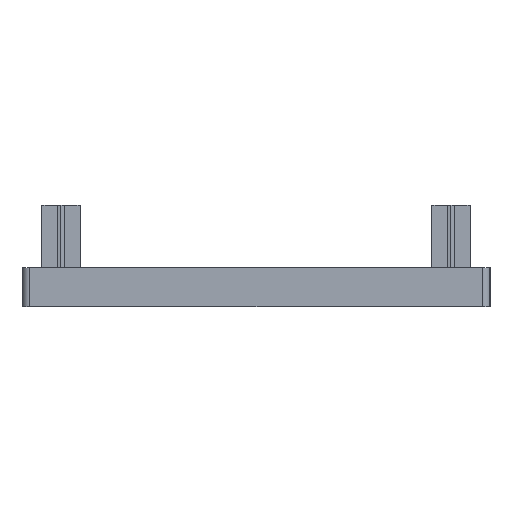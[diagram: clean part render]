
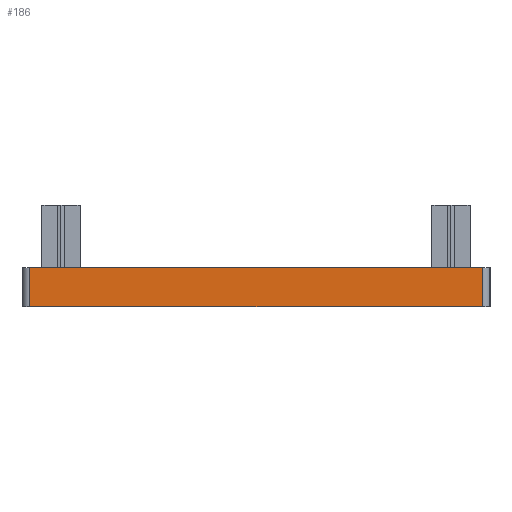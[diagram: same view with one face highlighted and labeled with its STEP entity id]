
A CAD part, left-side view. The second image highlights one B-rep face of the part: STEP entity #186.
In plain terms, the highlighted planar face has unit normal (-1, 0, 0).
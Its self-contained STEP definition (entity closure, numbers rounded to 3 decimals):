
#102 = DIRECTION ( 'NONE',  ( 0., -1., 0. ) ) ;
#151 = ORIENTED_EDGE ( 'NONE', *, *, #1580, .T. ) ;
#175 = CARTESIAN_POINT ( 'NONE',  ( -45., -30., 5. ) ) ;
#186 = ADVANCED_FACE ( 'NONE', ( #2004 ), #713, .F. ) ;
#204 = VECTOR ( 'NONE', #678, 1000. ) ;
#364 = DIRECTION ( 'NONE',  ( 0., -1., 0. ) ) ;
#383 = EDGE_CURVE ( 'NONE', #1465, #2014, #1149, .T. ) ;
#475 = ORIENTED_EDGE ( 'NONE', *, *, #1723, .T. ) ;
#490 = CARTESIAN_POINT ( 'NONE',  ( -45., 29., 5. ) ) ;
#523 = DIRECTION ( 'NONE',  ( 1., 0., 0. ) ) ;
#615 = LINE ( 'NONE', #1183, #1110 ) ;
#678 = DIRECTION ( 'NONE',  ( 0., 0., -1. ) ) ;
#713 = PLANE ( 'NONE',  #916 ) ;
#776 = VECTOR ( 'NONE', #364, 1000. ) ;
#852 = LINE ( 'NONE', #1669, #1730 ) ;
#873 = EDGE_CURVE ( 'NONE', #1409, #889, #615, .T. ) ;
#889 = VERTEX_POINT ( 'NONE', #2060 ) ;
#916 = AXIS2_PLACEMENT_3D ( 'NONE', #175, #523, #1777 ) ;
#1034 = CARTESIAN_POINT ( 'NONE',  ( -45., 29., 5. ) ) ;
#1110 = VECTOR ( 'NONE', #102, 1000. ) ;
#1149 = LINE ( 'NONE', #1438, #776 ) ;
#1183 = CARTESIAN_POINT ( 'NONE',  ( -45., -30., 5. ) ) ;
#1221 = ORIENTED_EDGE ( 'NONE', *, *, #873, .F. ) ;
#1381 = CARTESIAN_POINT ( 'NONE',  ( -45., -29., 0. ) ) ;
#1409 = VERTEX_POINT ( 'NONE', #1034 ) ;
#1438 = CARTESIAN_POINT ( 'NONE',  ( -45., -30., 0. ) ) ;
#1465 = VERTEX_POINT ( 'NONE', #1577 ) ;
#1470 = EDGE_LOOP ( 'NONE', ( #1960, #151, #1221, #475 ) ) ;
#1577 = CARTESIAN_POINT ( 'NONE',  ( -45., 29., 0. ) ) ;
#1580 = EDGE_CURVE ( 'NONE', #2014, #889, #852, .T. ) ;
#1634 = LINE ( 'NONE', #490, #204 ) ;
#1669 = CARTESIAN_POINT ( 'NONE',  ( -45., -29., 5. ) ) ;
#1723 = EDGE_CURVE ( 'NONE', #1409, #1465, #1634, .T. ) ;
#1730 = VECTOR ( 'NONE', #2030, 1000. ) ;
#1777 = DIRECTION ( 'NONE',  ( 0., 0., -1. ) ) ;
#1960 = ORIENTED_EDGE ( 'NONE', *, *, #383, .T. ) ;
#2004 = FACE_OUTER_BOUND ( 'NONE', #1470, .T. ) ;
#2014 = VERTEX_POINT ( 'NONE', #1381 ) ;
#2030 = DIRECTION ( 'NONE',  ( 0., 0., 1. ) ) ;
#2060 = CARTESIAN_POINT ( 'NONE',  ( -45., -29., 5. ) ) ;
